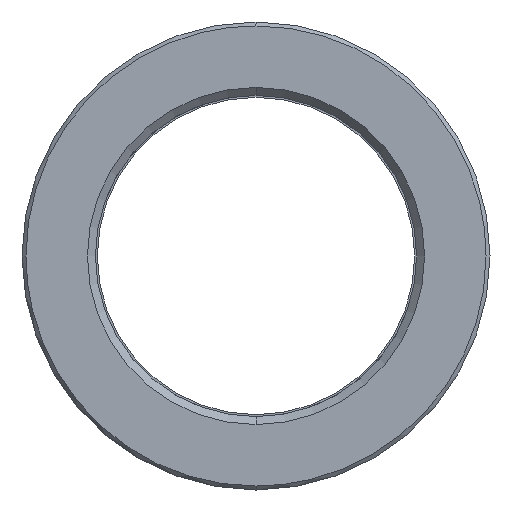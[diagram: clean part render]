
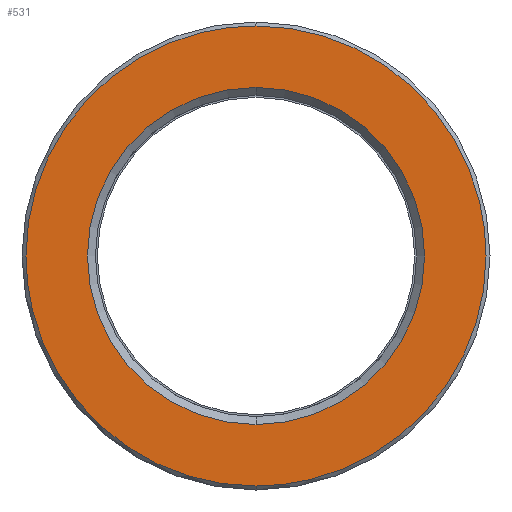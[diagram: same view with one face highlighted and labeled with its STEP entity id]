
A CAD part, left-side view. The second image highlights one B-rep face of the part: STEP entity #531.
In plain terms, the highlighted planar face has unit normal (-1, 0, 0).
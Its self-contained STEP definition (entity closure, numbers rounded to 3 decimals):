
#311=CARTESIAN_POINT('Axis2P3D Location',(0.,0.,0.)) ;
#315=CARTESIAN_POINT('Vertex',(0.,21.25,0.)) ;
#317=CARTESIAN_POINT('Vertex',(0.,0.,21.25)) ;
#320=CARTESIAN_POINT('Axis2P3D Location',(0.,0.,0.)) ;
#324=CARTESIAN_POINT('Vertex',(0.,0.,-21.25)) ;
#351=CARTESIAN_POINT('Axis2P3D Location',(0.,0.,0.)) ;
#355=CARTESIAN_POINT('Vertex',(0.,-21.25,0.)) ;
#358=CARTESIAN_POINT('Axis2P3D Location',(0.,0.,0.)) ;
#438=CARTESIAN_POINT('Axis2P3D Location',(0.,29.,0.)) ;
#444=CARTESIAN_POINT('Control Point',(0.,0.,-29.)) ;
#445=CARTESIAN_POINT('Control Point',(0.,1.442,-29.)) ;
#446=CARTESIAN_POINT('Control Point',(0.,2.884,-28.91)) ;
#447=CARTESIAN_POINT('Control Point',(0.,4.319,-28.731)) ;
#448=CARTESIAN_POINT('Control Point',(0.,8.336,-27.973)) ;
#449=CARTESIAN_POINT('Control Point',(0.,12.177,-26.519)) ;
#450=CARTESIAN_POINT('Control Point',(0.,14.542,-25.299)) ;
#451=CARTESIAN_POINT('Control Point',(0.,18.954,-22.344)) ;
#452=CARTESIAN_POINT('Control Point',(0.,22.589,-18.473)) ;
#453=CARTESIAN_POINT('Control Point',(0.,24.178,-16.338)) ;
#454=CARTESIAN_POINT('Control Point',(0.,26.719,-11.959)) ;
#455=CARTESIAN_POINT('Control Point',(0.,28.26,-7.143)) ;
#456=CARTESIAN_POINT('Control Point',(0.,28.753,-4.784)) ;
#457=CARTESIAN_POINT('Control Point',(0.,29.,-2.392)) ;
#458=CARTESIAN_POINT('Control Point',(0.,29.,0.)) ;
#459=CARTESIAN_POINT('Vertex',(0.,0.,-29.)) ;
#461=CARTESIAN_POINT('Vertex',(0.,29.,0.)) ;
#465=CARTESIAN_POINT('Control Point',(0.,-29.,0.)) ;
#466=CARTESIAN_POINT('Control Point',(0.,-29.,-2.638)) ;
#467=CARTESIAN_POINT('Control Point',(0.,-28.7,-5.276)) ;
#468=CARTESIAN_POINT('Control Point',(0.,-28.1,-7.869)) ;
#469=CARTESIAN_POINT('Control Point',(0.,-26.321,-12.873)) ;
#470=CARTESIAN_POINT('Control Point',(0.,-23.464,-17.349)) ;
#471=CARTESIAN_POINT('Control Point',(0.,-21.786,-19.414)) ;
#472=CARTESIAN_POINT('Control Point',(0.,-17.989,-23.127)) ;
#473=CARTESIAN_POINT('Control Point',(0.,-13.456,-25.893)) ;
#474=CARTESIAN_POINT('Control Point',(0.,-11.041,-27.012)) ;
#475=CARTESIAN_POINT('Control Point',(0.,-7.377,-28.223)) ;
#476=CARTESIAN_POINT('Control Point',(0.,-3.584,-28.815)) ;
#477=CARTESIAN_POINT('Control Point',(0.,-2.392,-28.938)) ;
#478=CARTESIAN_POINT('Control Point',(0.,-1.196,-29.)) ;
#479=CARTESIAN_POINT('Control Point',(0.,0.,-29.)) ;
#480=CARTESIAN_POINT('Vertex',(0.,-29.,0.)) ;
#484=CARTESIAN_POINT('Control Point',(0.,0.,29.)) ;
#485=CARTESIAN_POINT('Control Point',(0.,-1.442,29.)) ;
#486=CARTESIAN_POINT('Control Point',(0.,-2.884,28.91)) ;
#487=CARTESIAN_POINT('Control Point',(0.,-4.319,28.731)) ;
#488=CARTESIAN_POINT('Control Point',(0.,-8.336,27.973)) ;
#489=CARTESIAN_POINT('Control Point',(0.,-12.177,26.519)) ;
#490=CARTESIAN_POINT('Control Point',(0.,-14.542,25.299)) ;
#491=CARTESIAN_POINT('Control Point',(0.,-18.954,22.344)) ;
#492=CARTESIAN_POINT('Control Point',(0.,-22.589,18.473)) ;
#493=CARTESIAN_POINT('Control Point',(0.,-24.178,16.338)) ;
#494=CARTESIAN_POINT('Control Point',(0.,-26.719,11.959)) ;
#495=CARTESIAN_POINT('Control Point',(0.,-28.26,7.143)) ;
#496=CARTESIAN_POINT('Control Point',(0.,-28.753,4.784)) ;
#497=CARTESIAN_POINT('Control Point',(0.,-29.,2.392)) ;
#498=CARTESIAN_POINT('Control Point',(0.,-29.,0.)) ;
#499=CARTESIAN_POINT('Vertex',(0.,0.,29.)) ;
#503=CARTESIAN_POINT('Control Point',(0.,29.,0.)) ;
#504=CARTESIAN_POINT('Control Point',(0.,29.,2.638)) ;
#505=CARTESIAN_POINT('Control Point',(0.,28.7,5.276)) ;
#506=CARTESIAN_POINT('Control Point',(0.,28.1,7.869)) ;
#507=CARTESIAN_POINT('Control Point',(0.,26.321,12.873)) ;
#508=CARTESIAN_POINT('Control Point',(0.,23.464,17.349)) ;
#509=CARTESIAN_POINT('Control Point',(0.,21.786,19.414)) ;
#510=CARTESIAN_POINT('Control Point',(0.,17.989,23.127)) ;
#511=CARTESIAN_POINT('Control Point',(0.,13.456,25.893)) ;
#512=CARTESIAN_POINT('Control Point',(0.,11.041,27.012)) ;
#513=CARTESIAN_POINT('Control Point',(0.,7.377,28.223)) ;
#514=CARTESIAN_POINT('Control Point',(0.,3.584,28.815)) ;
#515=CARTESIAN_POINT('Control Point',(0.,2.392,28.938)) ;
#516=CARTESIAN_POINT('Control Point',(0.,1.196,29.)) ;
#517=CARTESIAN_POINT('Control Point',(0.,0.,29.)) ;
#312=DIRECTION('Axis2P3D Direction',(-1.,0.,0.)) ;
#321=DIRECTION('Axis2P3D Direction',(-1.,0.,0.)) ;
#352=DIRECTION('Axis2P3D Direction',(-1.,0.,0.)) ;
#359=DIRECTION('Axis2P3D Direction',(-1.,0.,0.)) ;
#439=DIRECTION('Axis2P3D Direction',(-1.,0.,0.)) ;
#440=DIRECTION('Axis2P3D XDirection',(0.,0.,1.)) ;
#313=AXIS2_PLACEMENT_3D('Circle Axis2P3D',#311,#312,$) ;
#322=AXIS2_PLACEMENT_3D('Circle Axis2P3D',#320,#321,$) ;
#353=AXIS2_PLACEMENT_3D('Circle Axis2P3D',#351,#352,$) ;
#360=AXIS2_PLACEMENT_3D('Circle Axis2P3D',#358,#359,$) ;
#441=AXIS2_PLACEMENT_3D('Plane Axis2P3D',#438,#439,#440) ;
#520=ORIENTED_EDGE('',*,*,#463,.F.) ;
#521=ORIENTED_EDGE('',*,*,#482,.F.) ;
#522=ORIENTED_EDGE('',*,*,#501,.F.) ;
#523=ORIENTED_EDGE('',*,*,#518,.F.) ;
#526=ORIENTED_EDGE('',*,*,#319,.T.) ;
#527=ORIENTED_EDGE('',*,*,#362,.T.) ;
#528=ORIENTED_EDGE('',*,*,#357,.T.) ;
#529=ORIENTED_EDGE('',*,*,#326,.T.) ;
#530=FACE_BOUND('',#525,.T.) ;
#531=ADVANCED_FACE('553-40X136',(#524,#530),#442,.T.) ;
#443=B_SPLINE_CURVE_WITH_KNOTS('',5,(#444,#445,#446,#447,#448,#449,#450,#451,#452,#453,#454,#455,#456,#457,#458),.UNSPECIFIED.,.F.,.U.,(6,3,3,3,6),(64.421,74.618,93.273,111.928,128.843),.UNSPECIFIED.) ;
#464=B_SPLINE_CURVE_WITH_KNOTS('',5,(#465,#466,#467,#468,#469,#470,#471,#472,#473,#474,#475,#476,#477,#478,#479),.UNSPECIFIED.,.F.,.U.,(6,3,3,3,6),(0.,18.655,37.309,55.964,64.421),.UNSPECIFIED.) ;
#483=B_SPLINE_CURVE_WITH_KNOTS('',5,(#484,#485,#486,#487,#488,#489,#490,#491,#492,#493,#494,#495,#496,#497,#498),.UNSPECIFIED.,.F.,.U.,(6,3,3,3,6),(64.421,74.618,93.273,111.928,128.843),.UNSPECIFIED.) ;
#502=B_SPLINE_CURVE_WITH_KNOTS('',5,(#503,#504,#505,#506,#507,#508,#509,#510,#511,#512,#513,#514,#515,#516,#517),.UNSPECIFIED.,.F.,.U.,(6,3,3,3,6),(0.,18.655,37.309,55.964,64.421),.UNSPECIFIED.) ;
#314=CIRCLE('generated circle',#313,21.25) ;
#323=CIRCLE('generated circle',#322,21.25) ;
#354=CIRCLE('generated circle',#353,21.25) ;
#361=CIRCLE('generated circle',#360,21.25) ;
#319=EDGE_CURVE('',#316,#318,#314,.F.) ;
#326=EDGE_CURVE('',#325,#316,#323,.F.) ;
#357=EDGE_CURVE('',#356,#325,#354,.F.) ;
#362=EDGE_CURVE('',#318,#356,#361,.F.) ;
#463=EDGE_CURVE('',#460,#462,#443,.T.) ;
#482=EDGE_CURVE('',#481,#460,#464,.T.) ;
#501=EDGE_CURVE('',#500,#481,#483,.T.) ;
#518=EDGE_CURVE('',#462,#500,#502,.T.) ;
#519=EDGE_LOOP('',(#520,#521,#522,#523)) ;
#525=EDGE_LOOP('',(#526,#527,#528,#529)) ;
#524=FACE_OUTER_BOUND('',#519,.T.) ;
#442=PLANE('Plane',#441) ;
#316=VERTEX_POINT('',#315) ;
#318=VERTEX_POINT('',#317) ;
#325=VERTEX_POINT('',#324) ;
#356=VERTEX_POINT('',#355) ;
#460=VERTEX_POINT('',#459) ;
#462=VERTEX_POINT('',#461) ;
#481=VERTEX_POINT('',#480) ;
#500=VERTEX_POINT('',#499) ;
